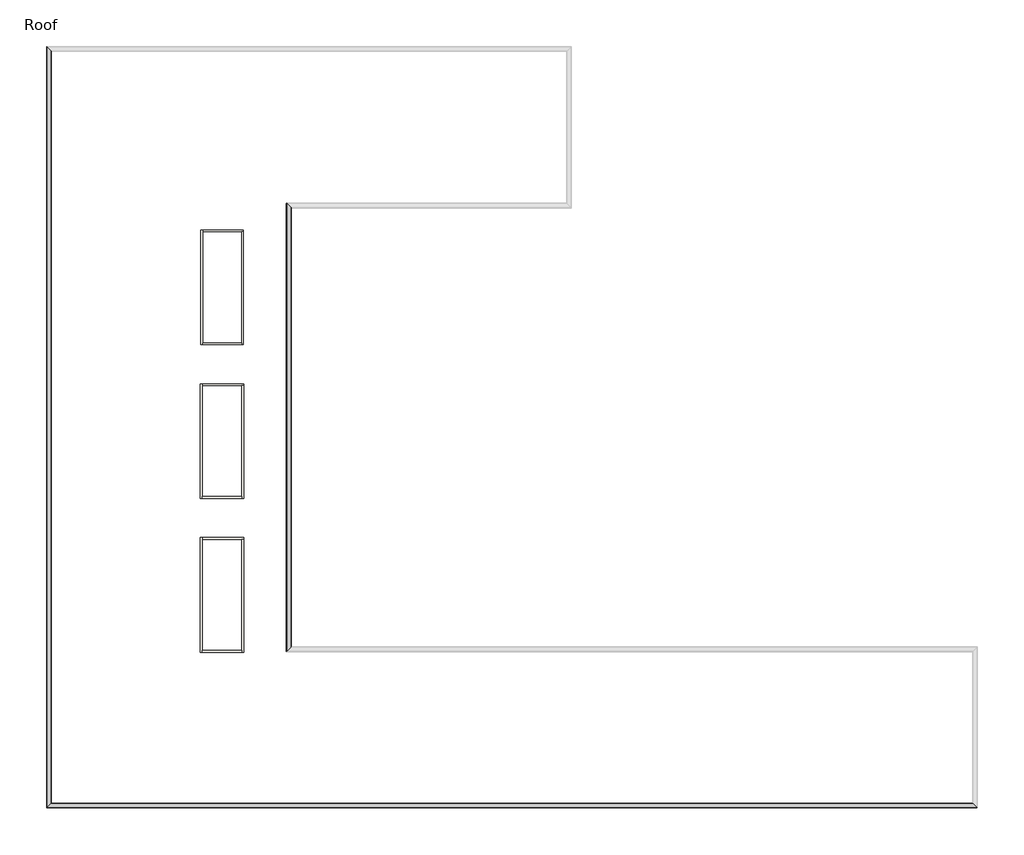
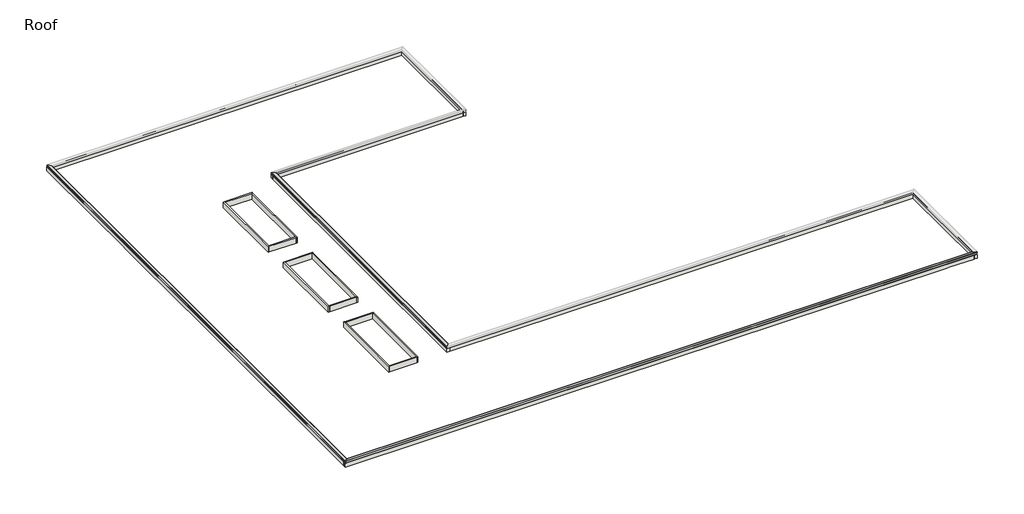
# One storey, part 1 of 2: 20 walls, 3 proxies.
"""IFC4 building model written with IfcOpenShell, lengths in millimetres."""

from ifc_helpers import new_model, si_unit, frame, origin, place, context, project, spatial, polyline, ellipse_curve, outline, extrude, faceted_brep, element, save
from ifc_brep_helpers import plane_surface, cylinder_surface, advanced_brep

model = new_model("IFC4")

# Units and contexts
model_context = context("Model", 3, world=origin())
ifc_project = project(units=[si_unit("LENGTHUNIT", "METRE", prefix="MILLI")], contexts=[model_context])

# Site, building, storey
site = spatial("IfcSite", under=ifc_project)
building = spatial("IfcBuilding", under=site)
storey = spatial("IfcBuildingStorey", under=building, Name="Roof", Elevation=10972.8)

# Proxies
placement = place(None, origin())
element("IfcBuildingElementProxy", 1, Name="Wall Sweeps", at=placement, inside=storey, context=model_context, shape_type="AdvancedBrep", body=[
    advanced_brep(
    [(17384.0457476, 42551.275, 11636.9329619), (17384.0457476, 42551.275, 11647.1824239), (17387.2207476, 42548.1, 11647.1824239), (17387.2207476, 42548.1, 11431.2824239), (17404.2349718, 42531.0857758, 11414.2681997), (17402.0062599, 42533.3144877, 11412.0394878), (17384.0457476, 42551.275, 11430.0), (17384.0457476, 42551.275, 11633.7462366), (17076.0707476, 42859.25, 11607.2537634), (17076.0707476, 42859.25, 11430.0), (17058.1102354, 42877.2105122, 11412.0394878), (17055.8651714, 42879.4555762, 11414.2845518), (17072.8957476, 42862.425, 11431.3151281), (17072.8957476, 42862.425, 11607.5268817), (17067.6672416, 42867.653506, 11607.0771178), (17068.7777162, 42866.5430314, 11609.8131313), (17384.0457476, 11201.325, 11636.9329619), (17068.7777162, 10886.0569685, 11609.8131313), (17067.6672416, 10884.9464939, 11607.0771178), (17072.8957476, 10890.175, 11607.5268817), (17072.8957476, 10890.175, 11431.3151281), (17055.8651714, 10873.1444237, 11414.2845518), (17058.1102354, 10875.3894877, 11412.0394878), (17076.0707476, 10893.35, 11430.0), (17076.0707476, 10893.35, 11607.2537634), (17384.0457476, 11201.325, 11633.7462366), (17384.0457476, 11201.325, 11430.0), (17402.0062599, 11219.2855122, 11412.0394878), (17404.2349718, 11221.5142242, 11414.2681997), (17387.2207476, 11204.5, 11431.2824239), (17387.2207476, 11204.5, 11647.1824239), (17384.0457476, 11201.325, 11647.1824239)],
    [
        (0, 1),
        (1, 2, ellipse_curve(frame((17385.6332476, 42549.6875, 11647.1824239), z_axis=(0.7071067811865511, 0.707106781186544, 0.0), x_axis=(-0.707106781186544, 0.707106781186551, 0.0)), 2.245064, 1.5875)),
        (2, 3),
        (3, 4),
        (4, 5),
        (5, 6),
        (6, 7),
        (7, 8),
        (8, 9),
        (9, 10),
        (10, 11),
        (11, 12),
        (12, 13),
        (13, 14),
        (14, 15, ellipse_curve(frame((17067.6672416, 42867.653506, 11608.6704804), z_axis=(0.7071067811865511, 0.707106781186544, 0.0), x_axis=(-0.707106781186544, 0.707106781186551, 0.0)), 2.2533551, 1.5933627)),
        (15, 0),
        (16, 17),
        (17, 18, ellipse_curve(frame((17067.6672416, 10884.9464939, 11608.6704804), z_axis=(0.7071067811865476, -0.7071067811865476, 0.0), x_axis=(0.7071067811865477, 0.7071067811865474, 0.0)), 2.2533551, 1.5933627)),
        (18, 19),
        (19, 20),
        (20, 21),
        (21, 22),
        (22, 23),
        (23, 24),
        (24, 25),
        (25, 26),
        (26, 27),
        (27, 28),
        (28, 29),
        (29, 30),
        (30, 31, ellipse_curve(frame((17385.6332476, 11202.9125, 11647.1824239), z_axis=(0.7071067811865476, -0.7071067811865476, 0.0), x_axis=(0.7071067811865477, 0.7071067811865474, 0.0)), 2.245064, 1.5875)),
        (31, 16),
        (0, 16),
        (31, 1),
        (30, 2),
        (29, 3),
        (28, 4),
        (27, 5),
        (26, 6),
        (25, 7),
        (24, 8),
        (23, 9),
        (22, 10),
        (21, 11),
        (20, 12),
        (19, 13),
        (18, 14),
        (17, 15),
    ],
    [
        plane_surface(frame((17377.6957476, 42557.625, 11277.6), z_axis=(0.7071067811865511, 0.707106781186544, 0.0), x_axis=(0.707106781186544, -0.7071067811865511, 0.0))),
        plane_surface(frame((17377.6957476, 11194.975, 11277.6), z_axis=(0.7071067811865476, -0.7071067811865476, 0.0), x_axis=(0.7071067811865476, 0.7071067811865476, 0.0))),
        plane_surface(frame((17384.0457476, 42551.275, 11636.9329619), z_axis=(-1.0, 0.0, 0.0), x_axis=(0.0, -1.0, 0.0))),
        cylinder_surface(frame((17385.6332476, 42557.625, 11647.1824239), z_axis=(0.0, 1.0, 0.0), x_axis=(-1.0, 0.0, 0.0)), 1.5875),
        plane_surface(frame((17387.2207476, 42548.1, 11647.1824239), z_axis=(1.0, 0.0, 0.0), x_axis=(0.0, -1.0, 0.0))),
        plane_surface(frame((17387.2207476, 42548.1, 11431.2824239), z_axis=(0.7071067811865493, 0.0, 0.7071067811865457), x_axis=(0.0, -1.0, 0.0))),
        plane_surface(frame((17404.2349718, 42531.0857758, 11414.2681997), z_axis=(0.7071067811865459, 0.0, -0.7071067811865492), x_axis=(0.0, -1.0, 0.0))),
        plane_surface(frame((17402.0062599, 42533.3144877, 11412.0394878), z_axis=(-0.7071067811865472, 0.0, -0.7071067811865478), x_axis=(0.0, -1.0, 0.0))),
        plane_surface(frame((17384.0457476, 42551.275, 11430.0), z_axis=(-1.0, 0.0, 0.0), x_axis=(0.0, -1.0, 0.0))),
        plane_surface(frame((17384.0457476, 42551.275, 11633.7462366), z_axis=(0.08570499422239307, 0.0, -0.9963205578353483), x_axis=(0.0, -1.0, 0.0))),
        plane_surface(frame((17076.0707476, 42859.25, 11607.2537634), z_axis=(1.0, 0.0, 0.0), x_axis=(0.0, -1.0, 0.0))),
        plane_surface(frame((17076.0707476, 42859.25, 11430.0), z_axis=(0.707106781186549, 0.0, -0.707106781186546), x_axis=(0.0, -1.0, 0.0))),
        plane_surface(frame((17058.1102354, 42877.2105122, 11412.0394878), z_axis=(-0.7071067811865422, 0.0, -0.7071067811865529), x_axis=(0.0, -1.0, 0.0))),
        plane_surface(frame((17055.8651714, 42879.4555762, 11414.2845518), z_axis=(-0.7071067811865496, 0.0, 0.7071067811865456), x_axis=(0.0, -1.0, 0.0))),
        plane_surface(frame((17072.8957476, 42862.425, 11431.3151281), z_axis=(-1.0, 0.0, 0.0), x_axis=(0.0, -1.0, 0.0))),
        plane_surface(frame((17072.8957476, 42862.425, 11607.5268817), z_axis=(0.08570499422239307, 0.0, -0.9963205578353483), x_axis=(0.0, -1.0, 0.0))),
        cylinder_surface(frame((17067.6672416, 42557.625, 11608.6704804), z_axis=(0.0, 1.0, 0.0), x_axis=(-1.0, 0.0, 0.0)), 1.5933627),
        plane_surface(frame((17068.7777162, 42866.5430314, 11609.8131313), z_axis=(-0.08570499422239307, 0.0, 0.9963205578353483), x_axis=(0.0, -1.0, 0.0))),
    ],
    [
        (0, [[1, 2, 3, 4, 5, 6, 7, 8, 9, 10, 11, 12, 13, 14, 15, 16]]),
        (1, [[17, 18, 19, 20, 21, 22, 23, 24, 25, 26, 27, 28, 29, 30, 31, 32]]),
        (2, [[-1, 33, -32, 34]]),
        (3, [[-2, -34, -31, 35]]),
        (4, [[-3, -35, -30, 36]]),
        (5, [[-4, -36, -29, 37]]),
        (6, [[-5, -37, -28, 38]]),
        (7, [[-6, -38, -27, 39]]),
        (8, [[-7, -39, -26, 40]]),
        (9, [[-8, -40, -25, 41]]),
        (10, [[-9, -41, -24, 42]]),
        (11, [[-10, -42, -23, 43]]),
        (12, [[-11, -43, -22, 44]]),
        (13, [[-12, -44, -21, 45]]),
        (14, [[-13, -45, -20, 46]]),
        (15, [[-14, -46, -19, 47]]),
        (16, [[-15, -47, -18, 48]]),
        (17, [[-16, -48, -17, -33]]),
    ],
),
])
element("IfcBuildingElementProxy", 2, Name="Wall Sweeps", at=placement, inside=storey, context=model_context, shape_type="AdvancedBrep", body=[
    advanced_brep(
    [(66317.1457476, -260.425, 11636.9329619), (66317.1457476, -260.425, 11647.1824239), (66320.3207476, -263.6, 11647.1824239), (66320.3207476, -263.6, 11431.2824239), (66337.3349718, -280.6142242, 11414.2681997), (66335.1062599, -278.3855123, 11412.0394878), (66317.1457476, -260.425, 11430.0), (66317.1457476, -260.425, 11633.7462366), (66009.1707476, 47.55, 11607.2537634), (66009.1707476, 47.55, 11430.0), (65991.2102354, 65.5105122, 11412.0394878), (65988.9651714, 67.7555762, 11414.2845518), (66005.9957476, 50.725, 11431.3151281), (66005.9957476, 50.725, 11607.5268817), (66000.7672416, 55.953506, 11607.0771178), (66001.8777162, 54.8430314, 11609.8131313), (-34.0042524, -260.425, 11636.9329619), (281.2637791, 54.8430314, 11609.8131313), (282.3742537, 55.953506, 11607.0771178), (277.1457476, 50.725, 11607.5268817), (277.1457476, 50.725, 11431.3151281), (294.1763239, 67.7555762, 11414.2845518), (291.9312599, 65.5105122, 11412.0394878), (273.9707476, 47.55, 11430.0), (273.9707476, 47.55, 11607.2537634), (-34.0042524, -260.425, 11633.7462366), (-34.0042524, -260.425, 11430.0), (-51.9647646, -278.3855123, 11412.0394878), (-54.1934766, -280.6142242, 11414.2681997), (-37.1792524, -263.6, 11431.2824239), (-37.1792524, -263.6, 11647.1824239), (-34.0042524, -260.425, 11647.1824239)],
    [
        (0, 1),
        (1, 2, ellipse_curve(frame((66318.7332476, -262.0125, 11647.1824239), z_axis=(0.7071067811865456, 0.7071067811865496, 0.0), x_axis=(0.7071067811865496, -0.7071067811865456, 0.0)), 2.245064, 1.5875)),
        (2, 3),
        (3, 4),
        (4, 5),
        (5, 6),
        (6, 7),
        (7, 8),
        (8, 9),
        (9, 10),
        (10, 11),
        (11, 12),
        (12, 13),
        (13, 14),
        (14, 15, ellipse_curve(frame((66000.7672416, 55.953506, 11608.6704804), z_axis=(0.7071067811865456, 0.7071067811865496, 0.0), x_axis=(0.7071067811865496, -0.7071067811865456, 0.0)), 2.2533551, 1.5933627)),
        (15, 0),
        (16, 17),
        (17, 18, ellipse_curve(frame((282.3742537, 55.953506, 11608.6704804), z_axis=(-0.7071067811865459, 0.7071067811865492, 0.0), x_axis=(0.707106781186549, 0.7071067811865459, 0.0)), 2.2533551, 1.5933627)),
        (18, 19),
        (19, 20),
        (20, 21),
        (21, 22),
        (22, 23),
        (23, 24),
        (24, 25),
        (25, 26),
        (26, 27),
        (27, 28),
        (28, 29),
        (29, 30),
        (30, 31, ellipse_curve(frame((-35.5917524, -262.0125, 11647.1824239), z_axis=(-0.7071067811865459, 0.7071067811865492, 0.0), x_axis=(0.707106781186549, 0.7071067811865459, 0.0)), 2.245064, 1.5875)),
        (31, 16),
        (0, 16),
        (31, 1),
        (30, 2),
        (29, 3),
        (28, 4),
        (27, 5),
        (26, 6),
        (25, 7),
        (24, 8),
        (23, 9),
        (22, 10),
        (21, 11),
        (20, 12),
        (19, 13),
        (18, 14),
        (17, 15),
    ],
    [
        plane_surface(frame((66310.7957476, -254.075, 11887.2), z_axis=(0.7071067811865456, 0.7071067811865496, 0.0), x_axis=(-0.7071067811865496, 0.7071067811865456, 0.0))),
        plane_surface(frame((-27.6542524, -254.075, 11887.2), z_axis=(-0.7071067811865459, 0.7071067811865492, 0.0), x_axis=(0.7071067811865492, 0.7071067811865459, 0.0))),
        plane_surface(frame((66317.1457476, -260.425, 11636.9329619), z_axis=(0.0, 1.0, 0.0), x_axis=(-1.0, 0.0, 0.0))),
        cylinder_surface(frame((66310.7957476, -262.0125, 11647.1824239), z_axis=(1.0, 0.0, 0.0), x_axis=(0.0, 1.0, 0.0)), 1.5875),
        plane_surface(frame((66320.3207476, -263.6, 11647.1824239), z_axis=(0.0, -1.0, 0.0), x_axis=(-1.0, 0.0, 0.0))),
        plane_surface(frame((66320.3207476, -263.6, 11431.2824239), z_axis=(0.0, -0.7071067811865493, 0.7071067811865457), x_axis=(-1.0, 0.0, 0.0))),
        plane_surface(frame((66337.3349718, -280.6142242, 11414.2681997), z_axis=(0.0, -0.7071067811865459, -0.7071067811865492), x_axis=(-1.0, 0.0, 0.0))),
        plane_surface(frame((66335.1062599, -278.3855123, 11412.0394878), z_axis=(0.0, 0.7071067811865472, -0.7071067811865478), x_axis=(-1.0, 0.0, 0.0))),
        plane_surface(frame((66317.1457476, -260.425, 11430.0), z_axis=(0.0, 1.0, 0.0), x_axis=(-1.0, 0.0, 0.0))),
        plane_surface(frame((66317.1457476, -260.425, 11633.7462366), z_axis=(0.0, -0.08570499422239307, -0.9963205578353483), x_axis=(-1.0, 0.0, 0.0))),
        plane_surface(frame((66009.1707476, 47.55, 11607.2537634), z_axis=(0.0, -1.0, 0.0), x_axis=(-1.0, 0.0, 0.0))),
        plane_surface(frame((66009.1707476, 47.55, 11430.0), z_axis=(0.0, -0.707106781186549, -0.707106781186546), x_axis=(-1.0, 0.0, 0.0))),
        plane_surface(frame((65991.2102354, 65.5105122, 11412.0394878), z_axis=(0.0, 0.7071067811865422, -0.7071067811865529), x_axis=(-1.0, 0.0, 0.0))),
        plane_surface(frame((65988.9651714, 67.7555762, 11414.2845518), z_axis=(0.0, 0.7071067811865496, 0.7071067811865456), x_axis=(-1.0, 0.0, 0.0))),
        plane_surface(frame((66005.9957476, 50.725, 11431.3151281), z_axis=(0.0, 1.0, 0.0), x_axis=(-1.0, 0.0, 0.0))),
        plane_surface(frame((66005.9957476, 50.725, 11607.5268817), z_axis=(0.0, -0.08570499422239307, -0.9963205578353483), x_axis=(-1.0, 0.0, 0.0))),
        cylinder_surface(frame((66310.7957476, 55.953506, 11608.6704804), z_axis=(1.0, 0.0, 0.0), x_axis=(0.0, 1.0, 0.0)), 1.5933627),
        plane_surface(frame((66001.8777162, 54.8430314, 11609.8131313), z_axis=(0.0, 0.08570499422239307, 0.9963205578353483), x_axis=(-1.0, 0.0, 0.0))),
    ],
    [
        (0, [[1, 2, 3, 4, 5, 6, 7, 8, 9, 10, 11, 12, 13, 14, 15, 16]]),
        (1, [[17, 18, 19, 20, 21, 22, 23, 24, 25, 26, 27, 28, 29, 30, 31, 32]]),
        (2, [[-1, 33, -32, 34]]),
        (3, [[-2, -34, -31, 35]]),
        (4, [[-3, -35, -30, 36]]),
        (5, [[-4, -36, -29, 37]]),
        (6, [[-5, -37, -28, 38]]),
        (7, [[-6, -38, -27, 39]]),
        (8, [[-7, -39, -26, 40]]),
        (9, [[-8, -40, -25, 41]]),
        (10, [[-9, -41, -24, 42]]),
        (11, [[-10, -42, -23, 43]]),
        (12, [[-11, -43, -22, 44]]),
        (13, [[-12, -44, -21, 45]]),
        (14, [[-13, -45, -20, 46]]),
        (15, [[-14, -46, -19, 47]]),
        (16, [[-15, -47, -18, 48]]),
        (17, [[-16, -48, -17, -33]]),
    ],
),
])
element("IfcBuildingElementProxy", 3, Name="Wall Sweeps", at=placement, inside=storey, context=model_context, shape_type="AdvancedBrep", body=[
    advanced_brep(
    [(-34.0042524, -260.425, 11636.9329619), (-34.0042524, -260.425, 11647.1824239), (-37.1792524, -263.6, 11647.1824239), (-37.1792524, -263.6, 11431.2824239), (-54.1934766, -280.6142242, 11414.2681997), (-51.9647646, -278.3855123, 11412.0394878), (-34.0042524, -260.425, 11430.0), (-34.0042524, -260.425, 11633.7462366), (273.9707476, 47.55, 11607.2537634), (273.9707476, 47.55, 11430.0), (291.9312599, 65.5105122, 11412.0394878), (294.1763239, 67.7555762, 11414.2845518), (277.1457476, 50.725, 11431.3151281), (277.1457476, 50.725, 11607.5268817), (282.3742537, 55.953506, 11607.0771178), (281.2637791, 54.8430314, 11609.8131313), (-34.0042524, 54038.425, 11636.9329619), (281.2637791, 53723.1569685, 11609.8131313), (282.3742537, 53722.0464939, 11607.0771178), (277.1457476, 53727.275, 11607.5268817), (277.1457476, 53727.275, 11431.3151281), (294.1763239, 53710.2444237, 11414.2845518), (291.9312599, 53712.4894877, 11412.0394878), (273.9707476, 53730.45, 11430.0), (273.9707476, 53730.45, 11607.2537634), (-34.0042524, 54038.425, 11633.7462366), (-34.0042524, 54038.425, 11430.0), (-51.9647646, 54056.3855122, 11412.0394878), (-54.1934766, 54058.6142242, 11414.2681997), (-37.1792524, 54041.6, 11431.2824239), (-37.1792524, 54041.6, 11647.1824239), (-34.0042524, 54038.425, 11647.1824239)],
    [
        (0, 1),
        (1, 2, ellipse_curve(frame((-35.5917524, -262.0125, 11647.1824239), z_axis=(0.7071067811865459, -0.7071067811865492, 0.0), x_axis=(-0.7071067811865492, -0.7071067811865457, 0.0)), 2.245064, 1.5875)),
        (2, 3),
        (3, 4),
        (4, 5),
        (5, 6),
        (6, 7),
        (7, 8),
        (8, 9),
        (9, 10),
        (10, 11),
        (11, 12),
        (12, 13),
        (13, 14),
        (14, 15, ellipse_curve(frame((282.3742537, 55.953506, 11608.6704804), z_axis=(0.7071067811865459, -0.7071067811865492, 0.0), x_axis=(-0.7071067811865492, -0.7071067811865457, 0.0)), 2.2533551, 1.5933627)),
        (15, 0),
        (16, 17),
        (17, 18, ellipse_curve(frame((282.3742537, 53722.0464939, 11608.6704804), z_axis=(0.7071067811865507, 0.7071067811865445, 0.0), x_axis=(0.7071067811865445, -0.7071067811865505, 0.0)), 2.2533551, 1.5933627)),
        (18, 19),
        (19, 20),
        (20, 21),
        (21, 22),
        (22, 23),
        (23, 24),
        (24, 25),
        (25, 26),
        (26, 27),
        (27, 28),
        (28, 29),
        (29, 30),
        (30, 31, ellipse_curve(frame((-35.5917524, 54040.0125, 11647.1824239), z_axis=(0.7071067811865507, 0.7071067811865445, 0.0), x_axis=(0.7071067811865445, -0.7071067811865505, 0.0)), 2.245064, 1.5875)),
        (31, 16),
        (0, 16),
        (31, 1),
        (30, 2),
        (29, 3),
        (28, 4),
        (27, 5),
        (26, 6),
        (25, 7),
        (24, 8),
        (23, 9),
        (22, 10),
        (21, 11),
        (20, 12),
        (19, 13),
        (18, 14),
        (17, 15),
    ],
    [
        plane_surface(frame((-27.6542524, -254.075, 11887.2), z_axis=(0.7071067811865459, -0.7071067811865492, 0.0), x_axis=(0.7071067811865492, 0.7071067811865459, 0.0))),
        plane_surface(frame((-27.6542524, 54032.075, 11887.2), z_axis=(0.7071067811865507, 0.7071067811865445, 0.0), x_axis=(0.7071067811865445, -0.7071067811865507, 0.0))),
        plane_surface(frame((-34.0042524, -260.425, 11636.9329619), z_axis=(1.0, 0.0, 0.0), x_axis=(0.0, 1.0, 0.0))),
        cylinder_surface(frame((-35.5917524, -254.075, 11647.1824239), z_axis=(0.0, -1.0, 0.0), x_axis=(1.0, 0.0, 0.0)), 1.5875),
        plane_surface(frame((-37.1792524, -263.6, 11647.1824239), z_axis=(-1.0, 0.0, 0.0), x_axis=(0.0, 1.0, 0.0))),
        plane_surface(frame((-37.1792524, -263.6, 11431.2824239), z_axis=(-0.7071067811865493, 0.0, 0.7071067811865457), x_axis=(0.0, 1.0, 0.0))),
        plane_surface(frame((-54.1934766, -280.6142242, 11414.2681997), z_axis=(-0.7071067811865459, 0.0, -0.7071067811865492), x_axis=(0.0, 1.0, 0.0))),
        plane_surface(frame((-51.9647646, -278.3855123, 11412.0394878), z_axis=(0.7071067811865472, 0.0, -0.7071067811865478), x_axis=(0.0, 1.0, 0.0))),
        plane_surface(frame((-34.0042524, -260.425, 11430.0), z_axis=(1.0, 0.0, 0.0), x_axis=(0.0, 1.0, 0.0))),
        plane_surface(frame((-34.0042524, -260.425, 11633.7462366), z_axis=(-0.08570499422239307, 0.0, -0.9963205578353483), x_axis=(0.0, 1.0, 0.0))),
        plane_surface(frame((273.9707476, 47.55, 11607.2537634), z_axis=(-1.0, 0.0, 0.0), x_axis=(0.0, 1.0, 0.0))),
        plane_surface(frame((273.9707476, 47.55, 11430.0), z_axis=(-0.707106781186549, 0.0, -0.707106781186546), x_axis=(0.0, 1.0, 0.0))),
        plane_surface(frame((291.9312599, 65.5105122, 11412.0394878), z_axis=(0.7071067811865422, 0.0, -0.7071067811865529), x_axis=(0.0, 1.0, 0.0))),
        plane_surface(frame((294.1763239, 67.7555762, 11414.2845518), z_axis=(0.7071067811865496, 0.0, 0.7071067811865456), x_axis=(0.0, 1.0, 0.0))),
        plane_surface(frame((277.1457476, 50.725, 11431.3151281), z_axis=(1.0, 0.0, 0.0), x_axis=(0.0, 1.0, 0.0))),
        plane_surface(frame((277.1457476, 50.725, 11607.5268817), z_axis=(-0.08570499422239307, 0.0, -0.9963205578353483), x_axis=(0.0, 1.0, 0.0))),
        cylinder_surface(frame((282.3742537, -254.075, 11608.6704804), z_axis=(0.0, -1.0, 0.0), x_axis=(1.0, 0.0, 0.0)), 1.5933627),
        plane_surface(frame((281.2637791, 54.8430314, 11609.8131313), z_axis=(0.08570499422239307, 0.0, 0.9963205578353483), x_axis=(0.0, 1.0, 0.0))),
    ],
    [
        (0, [[1, 2, 3, 4, 5, 6, 7, 8, 9, 10, 11, 12, 13, 14, 15, 16]]),
        (1, [[17, 18, 19, 20, 21, 22, 23, 24, 25, 26, 27, 28, 29, 30, 31, 32]]),
        (2, [[-1, 33, -32, 34]]),
        (3, [[-2, -34, -31, 35]]),
        (4, [[-3, -35, -30, 36]]),
        (5, [[-4, -36, -29, 37]]),
        (6, [[-5, -37, -28, 38]]),
        (7, [[-6, -38, -27, 39]]),
        (8, [[-7, -39, -26, 40]]),
        (9, [[-8, -40, -25, 41]]),
        (10, [[-9, -41, -24, 42]]),
        (11, [[-10, -42, -23, 43]]),
        (12, [[-11, -43, -22, 44]]),
        (13, [[-12, -44, -21, 45]]),
        (14, [[-13, -45, -20, 46]]),
        (15, [[-14, -46, -19, 47]]),
        (16, [[-15, -47, -18, 48]]),
        (17, [[-16, -48, -17, -33]]),
    ],
),
])

# Walls
element("IfcWall", 4, ObjectType="Exterior - Parapet EIFS on CMU", at=placement, inside=storey, context=model_context, shape_type="Brep", body=[
    faceted_brep([(37059.5207476, 54032.075, 10972.8), (37059.5207476, 53736.8, 10972.8), (37059.5207476, 42852.9, 10972.8), (37059.5207476, 42557.625, 10972.8), (37059.5207476, 42557.625, 11582.4), (37059.5207476, 42852.9, 11582.4), (37059.5207476, 53736.8, 11582.4), (37059.5207476, 54032.075, 11582.4), (37354.7957476, 54032.075, 10972.8), (37354.7957476, 54032.075, 11582.4), (37354.7957476, 42557.625, 11582.4), (37354.7957476, 42557.625, 10972.8), (37354.7957476, 45545.3, 10972.8)], [[[0, 1, 2, 3, 4, 5, 6, 7]], [[8, 9, 10, 11, 12]], [[3, 2, 1, 0, 8, 12, 11]], [[7, 6, 5, 4, 10, 9]], [[4, 3, 11, 10]], [[0, 7, 9, 8]]]),
])
element("IfcWall", 5, ObjectType="Exterior - Parapet EIFS on CMU", at=placement, inside=storey, context=model_context, shape_type="Brep", body=[
    faceted_brep([(37059.5207476, 42852.9, 10972.8), (17082.4207476, 42852.9, 10972.8), (17082.4207476, 42852.9, 11582.4), (37059.5207476, 42852.9, 11582.4), (37059.5207476, 42557.625, 10972.8), (37059.5207476, 42557.625, 11582.4), (17377.6957476, 42557.625, 11582.4), (17082.4207476, 42557.625, 11582.4), (17082.4207476, 42557.625, 10972.8), (17377.6957476, 42557.625, 10972.8)], [[[0, 1, 2, 3]], [[4, 5, 6, 7, 8, 9]], [[1, 0, 4, 9, 8]], [[3, 2, 7, 6, 5]], [[2, 1, 8, 7]], [[0, 3, 5, 4]]]),
])
element("IfcWall", 6, ObjectType="Exterior - Parapet EIFS on CMU", at=placement, inside=storey, context=model_context, shape_type="Brep", body=[
    faceted_brep([(17082.4207476, 42557.625, 10972.8), (17082.4207476, 10899.7, 10972.8), (17082.4207476, 10899.7, 11582.4), (17082.4207476, 42557.625, 11582.4), (17377.6957476, 42557.625, 10972.8), (17377.6957476, 42557.625, 11582.4), (17377.6957476, 11194.975, 11582.4), (17377.6957476, 10899.7, 11582.4), (17377.6957476, 10899.7, 10972.8), (17377.6957476, 11194.975, 10972.8)], [[[0, 1, 2, 3]], [[4, 5, 6, 7, 8, 9]], [[1, 0, 4, 9, 8]], [[3, 2, 7, 6, 5]], [[2, 1, 8, 7]], [[0, 3, 5, 4]]]),
])
element("IfcWall", 7, ObjectType="Exterior - Parapet EIFS on CMU", at=placement, inside=storey, context=model_context, shape_type="Brep", body=[
    faceted_brep([(17377.6957476, 10899.7, 10972.8), (66015.5207476, 10899.7, 10972.8), (66310.7957476, 10899.7, 10972.8), (66310.7957476, 10899.7, 11582.4), (66015.5207476, 10899.7, 11582.4), (17377.6957476, 10899.7, 11582.4), (17377.6957476, 11194.975, 10972.8), (17377.6957476, 11194.975, 11582.4), (66310.7957476, 11194.975, 11582.4), (66310.7957476, 11194.975, 10972.8)], [[[0, 1, 2, 3, 4, 5]], [[6, 7, 8, 9]], [[2, 1, 0, 6, 9]], [[5, 4, 3, 8, 7]], [[3, 2, 9, 8]], [[0, 5, 7, 6]]]),
])
element("IfcWall", 8, ObjectType="Exterior - Parapet EIFS on CMU", at=placement, inside=storey, context=model_context, shape_type="Brep", body=[
    faceted_brep([(66015.5207476, 10899.7, 10972.8), (66015.5207476, 41.2, 10972.8), (66015.5207476, -254.075, 10972.8), (66015.5207476, -254.075, 11582.4), (66015.5207476, 41.2, 11582.4), (66015.5207476, 10899.7, 11582.4), (66310.7957476, 10899.7, 10972.8), (66310.7957476, 10899.7, 11582.4), (66310.7957476, -254.075, 11582.4), (66310.7957476, -254.075, 10972.8), (66310.7957476, 53.9, 10972.8), (66310.7957476, 8334.3, 10972.8)], [[[0, 1, 2, 3, 4, 5]], [[6, 7, 8, 9, 10, 11]], [[2, 1, 0, 6, 11, 10, 9]], [[5, 4, 3, 8, 7]], [[3, 2, 9, 8]], [[0, 5, 7, 6]]]),
])
element("IfcWall", 9, ObjectType="Exterior - Parapet EIFS on CMU", at=placement, inside=storey, context=model_context, shape_type="Brep", body=[
    faceted_brep([(66015.5207476, 41.2, 10972.8), (267.6207476, 41.2, 10972.8), (-27.6542524, 41.2, 10972.8), (-27.6542524, 41.2, 11582.4), (267.6207476, 41.2, 11582.4), (66015.5207476, 41.2, 11582.4), (66015.5207476, -254.075, 10972.8), (66015.5207476, -254.075, 11582.4), (-27.6542524, -254.075, 11582.4), (-27.6542524, -254.075, 10972.8), (8357.5207476, -254.075, 10972.8), (22429.1207476, -254.075, 10972.8), (63145.3207476, -254.075, 10972.8), (63348.5207476, -254.075, 10972.8), (66002.8207476, -254.075, 10972.8)], [[[0, 1, 2, 3, 4, 5]], [[6, 7, 8, 9, 10, 11, 12, 13, 14]], [[2, 1, 0, 6, 14, 13, 12, 11, 10, 9]], [[5, 4, 3, 8, 7]], [[3, 2, 9, 8]], [[0, 5, 7, 6]]]),
])
element("IfcWall", 10, ObjectType="Exterior - Parapet EIFS on CMU", at=placement, inside=storey, context=model_context, shape_type="Brep", body=[
    faceted_brep([(267.6207476, 41.2, 10972.8), (267.6207476, 53736.8, 10972.8), (267.6207476, 54032.075, 10972.8), (267.6207476, 54032.075, 11582.4), (267.6207476, 53736.8, 11582.4), (267.6207476, 41.2, 11582.4), (-27.6542524, 54032.075, 10972.8), (-27.6542524, 45735.8, 10972.8), (-27.6542524, 40097.0, 10972.8), (-27.6542524, 39944.6, 10972.8), (-27.6542524, 28514.6, 10972.8), (-27.6542524, 28362.2, 10972.8), (-27.6542524, 25631.7, 10972.8), (-27.6542524, 41.2, 10972.8), (-27.6542524, 41.2, 11582.4), (-27.6542524, 54032.075, 11582.4)], [[[0, 1, 2, 3, 4, 5]], [[6, 7, 8, 9, 10, 11, 12, 13, 14, 15]], [[2, 1, 0, 13, 12, 11, 10, 9, 8, 7, 6]], [[5, 4, 3, 15, 14]], [[0, 5, 14, 13]], [[3, 2, 6, 15]]]),
])
element("IfcWall", 11, ObjectType="Exterior - Parapet EIFS on CMU", at=placement, inside=storey, context=model_context, shape_type="Brep", body=[
    faceted_brep([(267.6207476, 53736.8, 10972.8), (37059.5207476, 53736.8, 10972.8), (37059.5207476, 53736.8, 11582.4), (267.6207476, 53736.8, 11582.4), (267.6207476, 54032.075, 10972.8), (267.6207476, 54032.075, 11582.4), (37059.5207476, 54032.075, 11582.4), (37059.5207476, 54032.075, 10972.8), (34405.2207476, 54032.075, 10972.8), (16485.5207476, 54032.075, 10972.8)], [[[0, 1, 2, 3]], [[4, 5, 6, 7, 8, 9]], [[1, 0, 4, 9, 8, 7]], [[3, 2, 6, 5]], [[2, 1, 7, 6]], [[0, 3, 5, 4]]]),
])
element("IfcWall", 12, ObjectType="Generic - 5\"", at=placement, inside=storey, context=model_context, shape_type="Brep", body=[
    faceted_brep([(13998.9313551, 19015.0, 10972.8), (11051.7313551, 19015.0, 10972.8), (11051.7313551, 19015.0, 11582.4), (13998.9313551, 19015.0, 11582.4), (13998.9313551, 18888.0, 10972.8), (13998.9313551, 18888.0, 11582.4), (13871.9313551, 18888.0, 11582.4), (11051.7313551, 18888.0, 11582.4), (11051.7313551, 18888.0, 10972.8), (13871.9313551, 18888.0, 10972.8)], [[[0, 1, 2, 3]], [[4, 5, 6, 7, 8, 9]], [[1, 0, 4, 9, 8]], [[3, 2, 7, 6, 5]], [[0, 3, 5, 4]], [[2, 1, 8, 7]]]),
])
element("IfcWall", 13, ObjectType="Generic - 5\"", at=placement, inside=storey, context=model_context, shape_type="Brep", body=[
    faceted_brep([(13998.9313551, 10836.2, 10972.8), (13998.9313551, 18888.0, 10972.8), (13998.9313551, 18888.0, 11582.4), (13998.9313551, 10836.2, 11582.4), (13871.9313551, 10836.2, 10972.8), (13871.9313551, 10836.2, 11582.4), (13871.9313551, 10963.2, 11582.4), (13871.9313551, 18888.0, 11582.4), (13871.9313551, 18888.0, 10972.8), (13871.9313551, 10963.2, 10972.8)], [[[0, 1, 2, 3]], [[4, 5, 6, 7, 8, 9]], [[1, 0, 4, 9, 8]], [[3, 2, 7, 6, 5]], [[0, 3, 5, 4]], [[2, 1, 8, 7]]]),
])
element("IfcWall", 14, ObjectType="Generic - 5\"", at=placement, inside=storey, context=model_context, shape_type="SweptSolid", body=[
    extrude(outline(polyline([(13871.9313551, 10836.2), (11051.7313551, 10836.2), (11051.7313551, 10963.2), (13871.9313551, 10963.2), (13871.9313551, 10836.2)])), frame((0.0, 0.0, 10972.8), z_axis=(0.0, 0.0, 1.0), x_axis=(1.0, 0.0, 0.0)), (0.0, 0.0, 1.0), 609.6),
])
element("IfcWall", 15, ObjectType="Generic - 5\"", at=placement, inside=storey, context=model_context, shape_type="Brep", body=[
    faceted_brep([(10924.7313551, 19015.0, 10972.8), (10924.7313551, 10836.2, 10972.8), (10924.7313551, 10836.2, 11582.4), (10924.7313551, 19015.0, 11582.4), (11051.7313551, 19015.0, 10972.8), (11051.7313551, 19015.0, 11582.4), (11051.7313551, 18888.0, 11582.4), (11051.7313551, 10963.2, 11582.4), (11051.7313551, 10836.2, 11582.4), (11051.7313551, 10836.2, 10972.8), (11051.7313551, 10963.2, 10972.8), (11051.7313551, 18888.0, 10972.8)], [[[0, 1, 2, 3]], [[4, 5, 6, 7, 8, 9, 10, 11]], [[1, 0, 4, 11, 10, 9]], [[3, 2, 8, 7, 6, 5]], [[0, 3, 5, 4]], [[2, 1, 9, 8]]]),
])
element("IfcWall", 16, ObjectType="Generic - 5\"", at=placement, inside=storey, context=model_context, shape_type="Brep", body=[
    faceted_brep([(13998.9313552, 29987.8, 10972.8), (11051.7313551, 29987.8, 10972.8), (11051.7313551, 29987.8, 11582.4), (13998.9313552, 29987.8, 11582.4), (13998.9313552, 29860.8, 10972.8), (13998.9313552, 29860.8, 11582.4), (13871.9313552, 29860.8, 11582.4), (11051.7313551, 29860.8, 11582.4), (11051.7313551, 29860.8, 10972.8), (13871.9313552, 29860.8, 10972.8)], [[[0, 1, 2, 3]], [[4, 5, 6, 7, 8, 9]], [[1, 0, 4, 9, 8]], [[3, 2, 7, 6, 5]], [[0, 3, 5, 4]], [[2, 1, 8, 7]]]),
])
element("IfcWall", 17, ObjectType="Generic - 5\"", at=placement, inside=storey, context=model_context, shape_type="Brep", body=[
    faceted_brep([(13998.9313552, 21809.0, 10972.8), (13998.9313552, 29860.8, 10972.8), (13998.9313552, 29860.8, 11582.4), (13998.9313552, 21809.0, 11582.4), (13871.9313552, 21809.0, 10972.8), (13871.9313552, 21809.0, 11582.4), (13871.9313552, 21936.0, 11582.4), (13871.9313552, 29860.8, 11582.4), (13871.9313552, 29860.8, 10972.8), (13871.9313552, 21936.0, 10972.8)], [[[0, 1, 2, 3]], [[4, 5, 6, 7, 8, 9]], [[1, 0, 4, 9, 8]], [[3, 2, 7, 6, 5]], [[0, 3, 5, 4]], [[2, 1, 8, 7]]]),
])
element("IfcWall", 18, ObjectType="Generic - 5\"", at=placement, inside=storey, context=model_context, shape_type="SweptSolid", body=[
    extrude(outline(polyline([(13871.9313552, 21809.0), (11051.7313551, 21809.0), (11051.7313551, 21936.0), (13871.9313552, 21936.0), (13871.9313552, 21809.0)])), frame((0.0, 0.0, 10972.8), z_axis=(0.0, 0.0, 1.0), x_axis=(1.0, 0.0, 0.0)), (0.0, 0.0, 1.0), 609.6),
])
element("IfcWall", 19, ObjectType="Generic - 5\"", at=placement, inside=storey, context=model_context, shape_type="Brep", body=[
    faceted_brep([(10924.7313551, 29987.8, 10972.8), (10924.7313551, 21809.0, 10972.8), (10924.7313551, 21809.0, 11582.4), (10924.7313551, 29987.8, 11582.4), (11051.7313551, 29987.8, 10972.8), (11051.7313551, 29987.8, 11582.4), (11051.7313551, 29860.8, 11582.4), (11051.7313551, 21936.0, 11582.4), (11051.7313551, 21809.0, 11582.4), (11051.7313551, 21809.0, 10972.8), (11051.7313551, 21936.0, 10972.8), (11051.7313551, 29860.8, 10972.8)], [[[0, 1, 2, 3]], [[4, 5, 6, 7, 8, 9, 10, 11]], [[1, 0, 4, 11, 10, 9]], [[3, 2, 8, 7, 6, 5]], [[0, 3, 5, 4]], [[2, 1, 9, 8]]]),
])
element("IfcWall", 20, ObjectType="Generic - 5\"", at=placement, inside=storey, context=model_context, shape_type="Brep", body=[
    faceted_brep([(13988.9313552, 40960.6, 10972.8), (11071.9313551, 40960.6, 10972.8), (11071.9313551, 40960.6, 11582.4), (13988.9313552, 40960.6, 11582.4), (13988.9313552, 40833.6, 10972.8), (13988.9313552, 40833.6, 11582.4), (13861.9313552, 40833.6, 11582.4), (11071.9313551, 40833.6, 11582.4), (11071.9313551, 40833.6, 10972.8), (13861.9313552, 40833.6, 10972.8)], [[[0, 1, 2, 3]], [[4, 5, 6, 7, 8, 9]], [[1, 0, 4, 9, 8]], [[3, 2, 7, 6, 5]], [[0, 3, 5, 4]], [[2, 1, 8, 7]]]),
])
element("IfcWall", 21, ObjectType="Generic - 5\"", at=placement, inside=storey, context=model_context, shape_type="Brep", body=[
    faceted_brep([(13988.9313552, 32781.8, 10972.8), (13988.9313552, 40833.6, 10972.8), (13988.9313552, 40833.6, 11582.4), (13988.9313552, 32781.8, 11582.4), (13861.9313552, 32781.8, 10972.8), (13861.9313552, 32781.8, 11582.4), (13861.9313552, 32908.8, 11582.4), (13861.9313552, 40833.6, 11582.4), (13861.9313552, 40833.6, 10972.8), (13861.9313552, 32908.8, 10972.8)], [[[0, 1, 2, 3]], [[4, 5, 6, 7, 8, 9]], [[1, 0, 4, 9, 8]], [[3, 2, 7, 6, 5]], [[0, 3, 5, 4]], [[2, 1, 8, 7]]]),
])
element("IfcWall", 22, ObjectType="Generic - 5\"", at=placement, inside=storey, context=model_context, shape_type="SweptSolid", body=[
    extrude(outline(polyline([(13861.9313552, 32781.8), (11071.9313551, 32781.8), (11071.9313551, 32908.8), (13861.9313552, 32908.8), (13861.9313552, 32781.8)])), frame((0.0, 0.0, 10972.8), z_axis=(0.0, 0.0, 1.0), x_axis=(1.0, 0.0, 0.0)), (0.0, 0.0, 1.0), 609.6),
])
element("IfcWall", 23, ObjectType="Generic - 5\"", at=placement, inside=storey, context=model_context, shape_type="Brep", body=[
    faceted_brep([(10944.9313551, 40960.6, 10972.8), (10944.9313551, 32781.8, 10972.8), (10944.9313551, 32781.8, 11582.4), (10944.9313551, 40960.6, 11582.4), (11071.9313551, 40960.6, 10972.8), (11071.9313551, 40960.6, 11582.4), (11071.9313551, 40833.6, 11582.4), (11071.9313551, 32908.8, 11582.4), (11071.9313551, 32781.8, 11582.4), (11071.9313551, 32781.8, 10972.8), (11071.9313551, 32908.8, 10972.8), (11071.9313551, 40833.6, 10972.8)], [[[0, 1, 2, 3]], [[4, 5, 6, 7, 8, 9, 10, 11]], [[1, 0, 4, 11, 10, 9]], [[3, 2, 8, 7, 6, 5]], [[0, 3, 5, 4]], [[2, 1, 9, 8]]]),
])

save(model, "model.ifc")
